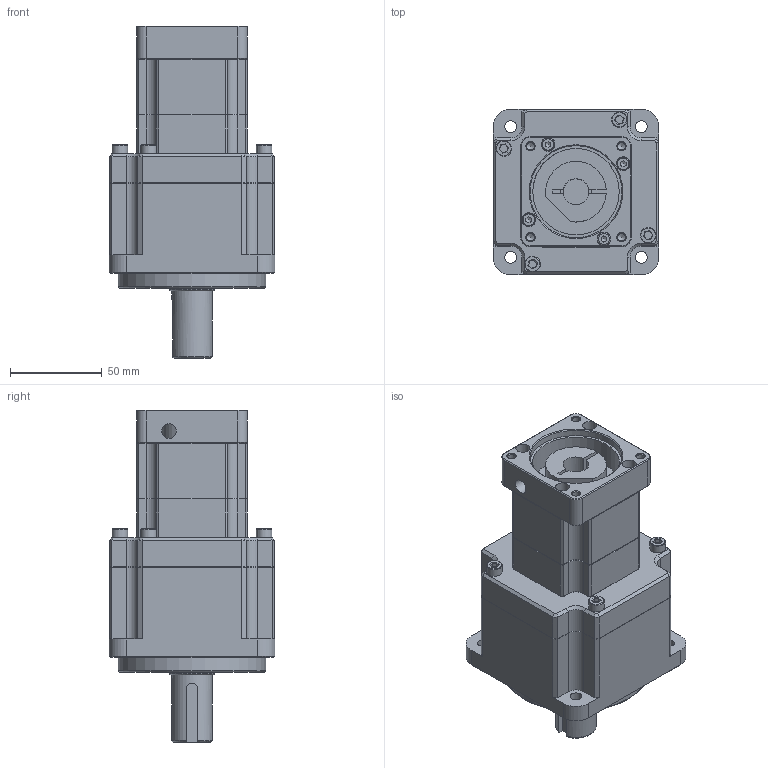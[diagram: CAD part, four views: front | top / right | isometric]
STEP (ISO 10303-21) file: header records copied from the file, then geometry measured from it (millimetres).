
FILE_DESCRIPTION((''),'2;1');
FILE_NAME('D:\유성\유성\도면\3D\2. 홈페이지용 3D 도면 (ipt)\외부도\SPI090 2단\SPI090DS015~050KA\SPI(H)090D SERIES (2 STAGE-KA TYPE)_Shrinkwrap_1.stp','2014-05-08T13:46:01',('nagyu'),(''),'Autodesk Inventor 2013','Autodesk Inventor 2013','');
FILE_SCHEMA(('AUTOMOTIVE_DESIGN { 1 0 10303 214 1 1 1 1 }'));
Length unit declared in the file: millimetre
Products named in the file (1): SPI(H)090D SERIES (2 STAGE-KA TYPE)_Shrinkwrap_1
Bounding box: 90 x 90 x 180.5 mm (x, y, z)
Volume: 723320.2 mm3; surface area: 73167.8 mm2
Topology: 1 solids, 9 shells, 476 faces, 1092 edges, 662 vertices
Faces by surface type: plane 237, cylinder 129, cone 91, torus 11, bspline 8
Full cylindrical faces by diameter (mm): 4 x4, 4.134 x4, 4.5 x4, 5.5 x4, 6.5 x4, 7 x4, 7.5 x4, 8 x2, 8.5 x5, 14 x1, 17 x1, 22 x1, 24.5 x1, 47 x1, 50 x1, 80 x1
Entity records: 19125 total; most frequent: CARTESIAN_POINT 8633, DIRECTION 2155, ORIENTED_EDGE 1998, EDGE_CURVE 999, AXIS2_PLACEMENT_3D 808, VERTEX_POINT 648, EDGE_LOOP 603, VECTOR 539
